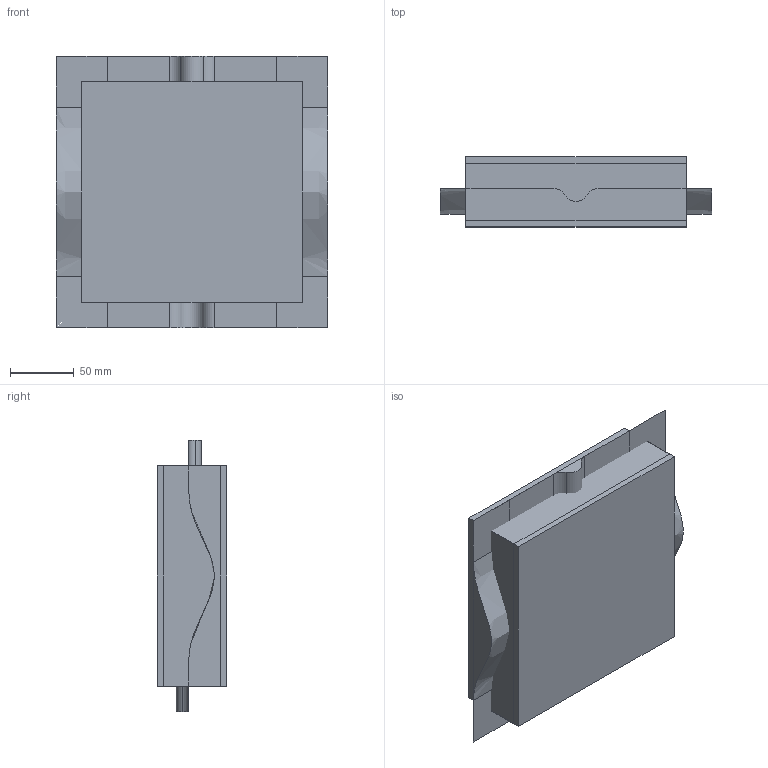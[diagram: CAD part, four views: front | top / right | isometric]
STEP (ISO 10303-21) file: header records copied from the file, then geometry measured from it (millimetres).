
FILE_DESCRIPTION(('CATIA V5 STEP Exchange'),'2;1');
FILE_NAME('C:\_Andres\UNIVERSIDAD\IQS\ASIGNATURAS\DAO\EXF\EXF-16172c\2inicio\Sarrió_Mercade_Ej02_v33.stp','2017-03-05T15:45:40+00:00',('none'),('none'),'CATIA Version 5-6 Release 2014 SP1 HF18','CATIA V5 STEP AP203','none');
FILE_SCHEMA(('CONFIG_CONTROL_DESIGN'));
Length unit declared in the file: millimetre
Products named in the file (1): Sarrió_Mercade_Ej02_v33
Bounding box: 213 x 55 x 213 mm (x, y, z)
Surface area: 296017.1 mm2
Topology: 3 solids, 10 shells, 72 faces, 205 edges, 150 vertices
Faces by surface type: bspline 32, plane 32, cylinder 6, extrusion 2
Entity records: 5876 total; most frequent: CARTESIAN_POINT 4559, ORIENTED_EDGE 288, DIRECTION 151, EDGE_CURVE 132, VERTEX_POINT 84, VECTOR 77, LINE 75, ADVANCED_FACE 72
